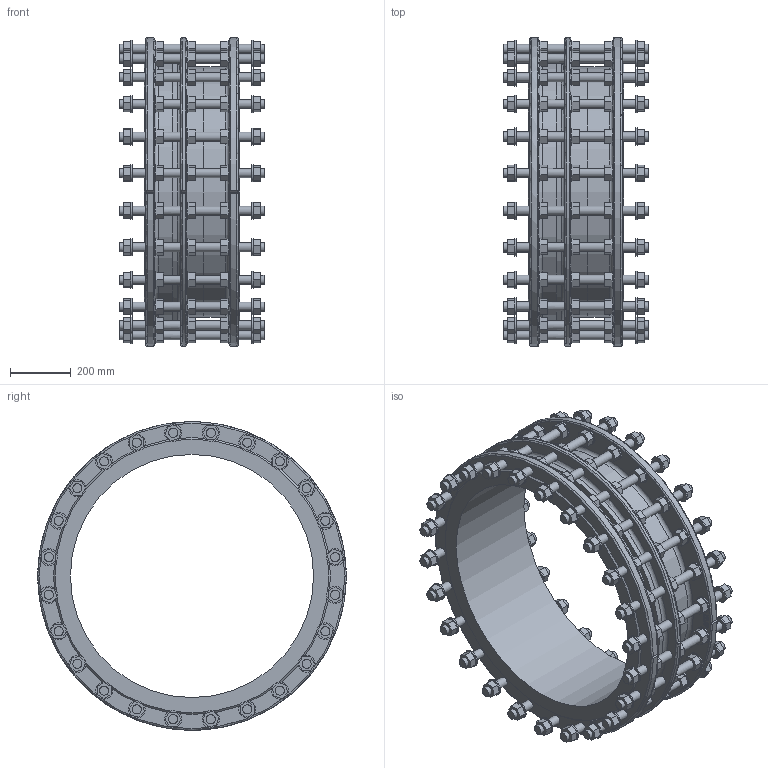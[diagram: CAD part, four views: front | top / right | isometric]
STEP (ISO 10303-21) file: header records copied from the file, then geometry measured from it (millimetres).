
FILE_DESCRIPTION (( 'STEP AP203' ), '1' );
FILE_NAME ('O_265_911_DN800_0XXXXX01_L=315_REV01.step', '2024-12-12T08:26:47', ( '' ), ( '' ), 'SwSTEP 2.0', 'SolidWorks 2022', '' );
FILE_SCHEMA (( 'CONFIG_CONTROL_DESIGN' ));
Length unit declared in the file: millimetre
Products named in the file (1): O_265_911_DN800_0XXXXX01_L=315_REV01
Bounding box: 480 x 1014.97 x 1015 mm (x, y, z)
Volume: 50008982.9 mm3; surface area: 4412148.2 mm2
Topology: 1 solids, 1 shells, 1476 faces, 3594 edges, 2371 vertices
Faces by surface type: plane 1188, cylinder 276, torus 9, cone 3
Full cylindrical faces by diameter (mm): 30 x144, 56 x120, 800 x1, 824 x2, 864 x1
Entity records: 41370 total; most frequent: CARTESIAN_POINT 7988, DIRECTION 6843, ORIENTED_EDGE 6270, EDGE_CURVE 3135, LINE 2285, VECTOR 2285, AXIS2_PLACEMENT_3D 2279, VERTEX_POINT 2192
